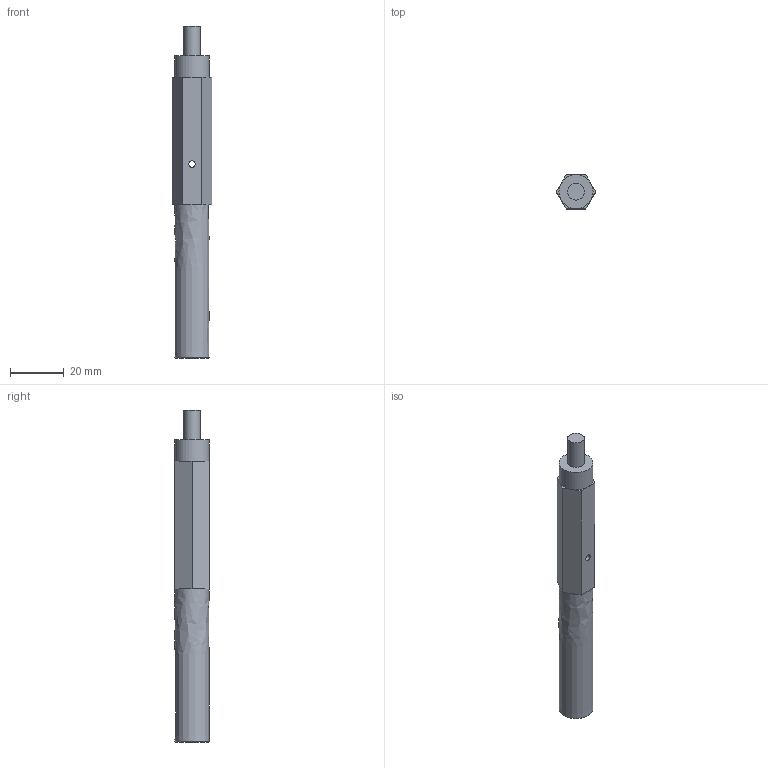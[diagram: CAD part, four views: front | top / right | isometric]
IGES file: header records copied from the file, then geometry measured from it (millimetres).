
Global section: file name: No Iges File Name specified; native system: AutoDesk Inventor R6.0; preprocessor: AutoDesk Inventor Iges Exporter R6.0; author: No Author specified; organization: No Organization specified; date: 20080103.172425; units: inch
Bounding box: 14.66 x 12.7 x 123.89 mm (x, y, z)
Surface area: 5768.6 mm2 (no closed solid volume)
Topology: 0 solids, 0 shells, 33 faces, 142 edges, 135 vertices
Faces by surface type: plane 24, revolution 6, bspline 3
